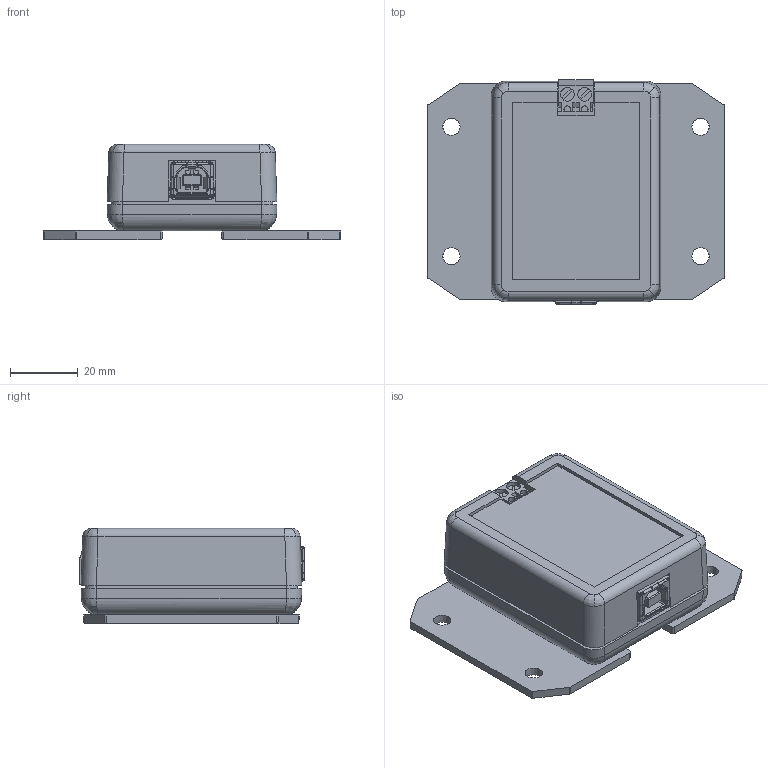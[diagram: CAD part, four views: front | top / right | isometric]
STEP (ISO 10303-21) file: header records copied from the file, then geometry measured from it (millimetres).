
FILE_DESCRIPTION (( 'STEP AP214' ), '1' );
FILE_NAME ('Mini-ADU, 2-Pos, Flange.STEP', '2018-09-24T19:42:11', ( '' ), ( '' ), 'SwSTEP 2.0', 'SolidWorks 2014', '' );
FILE_SCHEMA (( 'AUTOMOTIVE_DESIGN' ));
Length unit declared in the file: inch
Products named in the file (8): 91420A128_METRIC FLAT HEAD PHILLIPS MACHINE SCREW_91420A128; Mounting Bracket ADU; USB; Wieland_25.163.0253.0_CAD STEP data; Circuit Board; M3  SERIES 29 LNG; MiniADU; Mini-ADU, 2-Pos, Flange
Assembly tree (14 placements, depth 2):
  Mini-ADU, 2-Pos, Flange
    MiniADU
    M3  SERIES 29 LNG  x4
    Circuit Board
    Wieland_25.163.0253.0_CAD STEP data
    USB
    Mounting Bracket ADU  x2
    91420A128_METRIC FLAT HEAD PHILLIPS MACHINE SCREW_91420A128  x4
Bounding box: 87.56 x 66.18 x 28.04 mm (x, y, z)
Volume: 44726.6 mm3; surface area: 45342.3 mm2
Topology: 14 solids, 15 shells, 2371 faces, 6508 edges, 4230 vertices
Faces by surface type: plane 1101, cylinder 912, bspline 224, cone 126, torus 8
Entity records: 70903 total; most frequent: CARTESIAN_POINT 26669, ORIENTED_EDGE 9436, DIRECTION 7340, EDGE_CURVE 4722, VECTOR 3130, LINE 3130, VERTEX_POINT 3061, AXIS2_PLACEMENT_3D 2105
